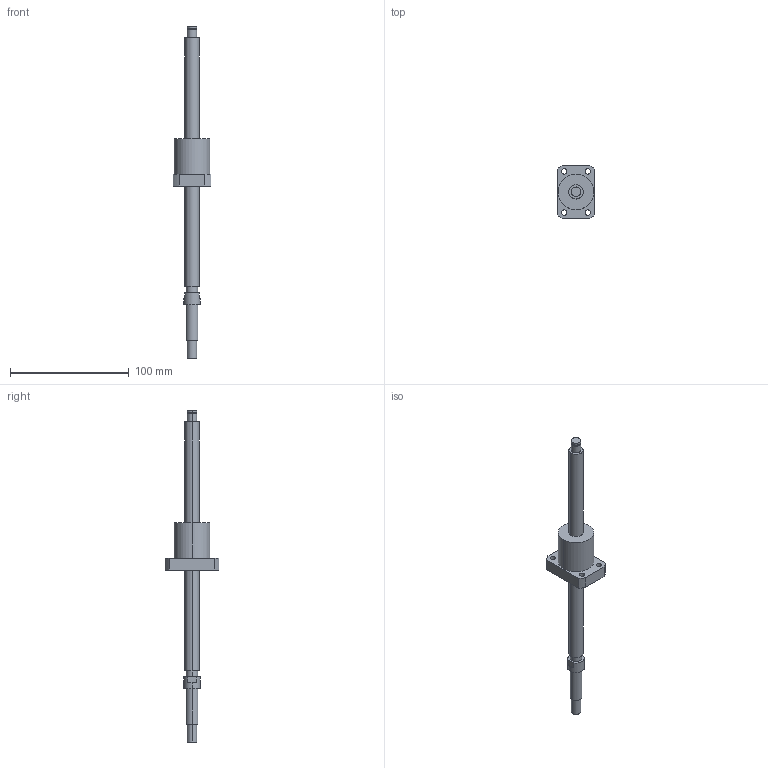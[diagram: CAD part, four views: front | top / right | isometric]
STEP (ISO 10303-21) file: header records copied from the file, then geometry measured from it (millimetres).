
FILE_DESCRIPTION((''),'2;1');
FILE_NAME('R12-5B1-FSW-210-280','2008-03-28T',('mahdi'),(''),'PRO/ENGINEER BY PARAMETRIC TECHNOLOGY CORPORATION, 2005070','PRO/ENGINEER BY PARAMETRIC TECHNOLOGY CORPORATION, 2005070','');
FILE_SCHEMA(('CONFIG_CONTROL_DESIGN'));
Length unit declared in the file: millimetre
Products named in the file (1): R12-5B1-FSW-210-280
Bounding box: 32 x 45 x 280 mm (x, y, z)
Volume: 58793.9 mm3; surface area: 16448 mm2
Topology: 1 solids, 1 shells, 64 faces, 144 edges, 96 vertices
Faces by surface type: cylinder 40, plane 24
Entity records: 1886 total; most frequent: DIRECTION 356, CARTESIAN_POINT 304, ORIENTED_EDGE 288, AXIS2_PLACEMENT_3D 148, EDGE_CURVE 144, VERTEX_POINT 96, EDGE_LOOP 86, CIRCLE 84
